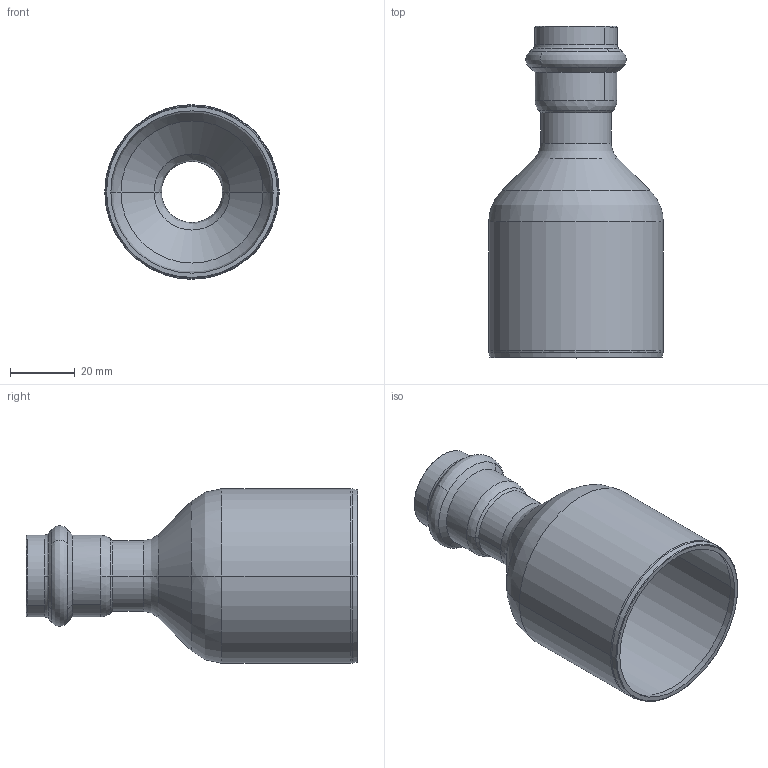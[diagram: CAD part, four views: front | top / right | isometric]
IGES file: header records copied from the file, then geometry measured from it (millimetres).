
Start section: Elysium IGES Interface
Global section: file name: C:\Users\Wallenburg\Desktop\3d modellen sudo\S-Pr VP\SP6243V\6243VW5422.igs; native system: CoCreate Modeling 17.00A  17-Jun-2010; preprocessor: CoCreate IGES_3D V2.2; author: Unknown; organization: Unknown; date: 20130124.094534; units: millimetre
Bounding box: 54 x 102.71 x 54 mm (x, y, z)
Volume: 21931.9 mm3; surface area: 26998.5 mm2
Topology: 1 solids, 1 shells, 73 faces, 166 edges, 96 vertices
Faces by surface type: bspline 73
